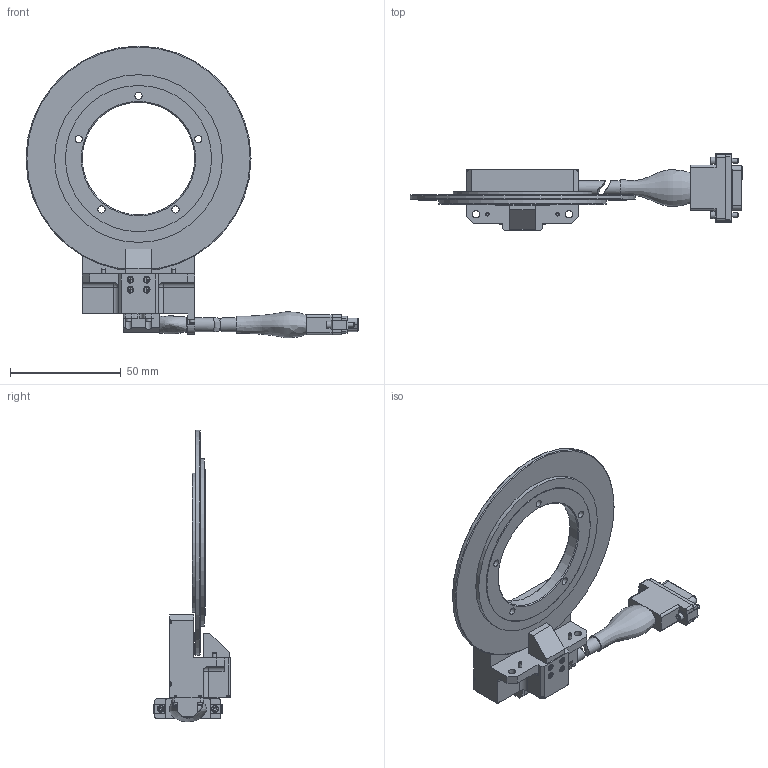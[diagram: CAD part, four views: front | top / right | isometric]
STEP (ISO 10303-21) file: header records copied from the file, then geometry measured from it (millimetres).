
FILE_DESCRIPTION (( 'STEP AP214' ), '1' );
FILE_NAME ('190-0314-02 Encoder Outline, 4 inch.STEP', '2021-02-24T18:30:34', ( '' ), ( '' ), 'SwSTEP 2.0', 'SolidWorks 2019', '' );
FILE_SCHEMA (( 'AUTOMOTIVE_DESIGN' ));
Length unit declared in the file: inch
Products named in the file (3): 190-0314-02 Encoder Outline, 4 inch; Disk Hub Assy, 4 inch; ARA Readhead Assy, Left Exit
Assembly tree (2 placements, depth 2):
  190-0314-02 Encoder Outline, 4 inch
    Disk Hub Assy, 4 inch
    ARA Readhead Assy, Left Exit
Bounding box: 149.91 x 34.74 x 131.78 mm (x, y, z)
Volume: 60264.8 mm3; surface area: 29204 mm2
Topology: 3 solids, 15 shells, 1531 faces, 3827 edges, 2495 vertices
Faces by surface type: plane 1008, cylinder 244, bspline 198, cone 77, sphere 2, torus 2
Full cylindrical faces by diameter (mm): 0.508 x25, 0.635 x25, 1.3 x2, 1.513 x1, 1.524 x12, 1.575 x2, 1.58 x2, 1.59 x2, 1.778 x12, 2.08 x2, 2.1 x4, 2.3 x2, 2.337 x2, 2.339 x1, 2.36 x2, 2.438 x18, 3.18 x2, 3.264 x5, 3.277 x2, 6.35 x3, 50.8 x1, 62.738 x1, 64.262 x1, 66.04 x1, 75.743 x1, 101.6 x1
Entity records: 83219 total; most frequent: CARTESIAN_POINT 29232, ORIENTED_EDGE 6950, DIRECTION 6320, EDGE_CURVE 3475, LINE 2438, VECTOR 2438, VERTEX_POINT 2380, EDGE_LOOP 1987
